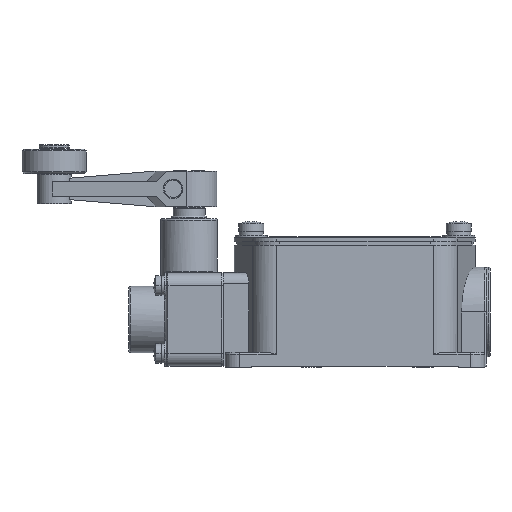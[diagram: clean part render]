
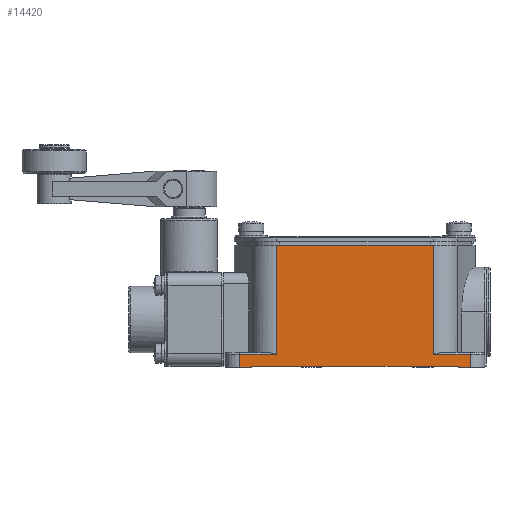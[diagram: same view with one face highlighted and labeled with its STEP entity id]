
A CAD part, front view. The second image highlights one B-rep face of the part: STEP entity #14420.
In plain terms, the highlighted planar face has unit normal (0, -1, 0).
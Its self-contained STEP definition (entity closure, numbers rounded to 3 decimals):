
#3562=DIRECTION('',(1.,0.,0.));
#3563=VECTOR('',#3562,57.7);
#3564=CARTESIAN_POINT('',(-28.85,-21.1,0.));
#3565=LINE('',#3564,#3563);
#3729=DIRECTION('',(0.,0.,-1.));
#3730=VECTOR('',#3729,0.4);
#3731=CARTESIAN_POINT('',(28.85,-21.1,0.));
#3732=LINE('',#3731,#3730);
#3733=DIRECTION('',(1.,0.,0.));
#3734=VECTOR('',#3733,10.326);
#3735=CARTESIAN_POINT('',(21.924,-21.1,3.3));
#3736=LINE('',#3735,#3734);
#3737=DIRECTION('',(0.,0.,1.));
#3738=VECTOR('',#3737,3.7);
#3739=CARTESIAN_POINT('',(32.25,-21.1,-0.4));
#3740=LINE('',#3739,#3738);
#3741=DIRECTION('',(0.,0.,-1.));
#3742=VECTOR('',#3741,0.4);
#3743=CARTESIAN_POINT('',(-28.85,-21.1,0.));
#3744=LINE('',#3743,#3742);
#3745=DIRECTION('',(0.,0.,-1.));
#3746=VECTOR('',#3745,3.7);
#3747=CARTESIAN_POINT('',(-32.25,-21.1,3.3));
#3748=LINE('',#3747,#3746);
#3749=DIRECTION('',(1.,0.,0.));
#3750=VECTOR('',#3749,10.326);
#3751=CARTESIAN_POINT('',(-32.25,-21.1,3.3));
#3752=LINE('',#3751,#3750);
#3827=DIRECTION('',(-1.,0.,0.));
#3828=VECTOR('',#3827,3.4);
#3829=CARTESIAN_POINT('',(32.25,-21.1,-0.4));
#3830=LINE('',#3829,#3828);
#3854=DIRECTION('',(0.,0.,1.));
#3855=VECTOR('',#3854,30.5);
#3856=CARTESIAN_POINT('',(21.924,-21.1,3.3));
#3857=LINE('',#3856,#3855);
#3881=DIRECTION('',(1.,0.,0.));
#3882=VECTOR('',#3881,43.849);
#3883=CARTESIAN_POINT('',(-21.924,-21.1,33.8));
#3884=LINE('',#3883,#3882);
#4044=DIRECTION('',(0.,0.,-1.));
#4045=VECTOR('',#4044,30.5);
#4046=CARTESIAN_POINT('',(-21.924,-21.1,33.8));
#4047=LINE('',#4046,#4045);
#4132=DIRECTION('',(-1.,0.,0.));
#4133=VECTOR('',#4132,3.4);
#4134=CARTESIAN_POINT('',(-28.85,-21.1,-0.4));
#4135=LINE('',#4134,#4133);
#8296=CARTESIAN_POINT('',(28.85,-21.1,-0.4));
#8298=VERTEX_POINT('',#8296);
#8310=CARTESIAN_POINT('',(-28.85,-21.1,-0.4));
#8311=VERTEX_POINT('',#8310);
#8328=CARTESIAN_POINT('',(28.85,-21.1,0.));
#8330=VERTEX_POINT('',#8328);
#8342=CARTESIAN_POINT('',(-28.85,-21.1,0.));
#8343=VERTEX_POINT('',#8342);
#8400=CARTESIAN_POINT('',(-21.924,-21.1,33.8));
#8401=VERTEX_POINT('',#8400);
#8402=CARTESIAN_POINT('',(21.924,-21.1,33.8));
#8404=VERTEX_POINT('',#8402);
#8409=CARTESIAN_POINT('',(32.25,-21.1,-0.4));
#8411=VERTEX_POINT('',#8409);
#8420=CARTESIAN_POINT('',(-32.25,-21.1,-0.4));
#8422=VERTEX_POINT('',#8420);
#8563=CARTESIAN_POINT('',(32.25,-21.1,3.3));
#8564=VERTEX_POINT('',#8563);
#8567=CARTESIAN_POINT('',(21.924,-21.1,3.3));
#8568=VERTEX_POINT('',#8567);
#8597=CARTESIAN_POINT('',(-32.25,-21.1,3.3));
#8598=CARTESIAN_POINT('',(-21.924,-21.1,3.3));
#8599=VERTEX_POINT('',#8597);
#8600=VERTEX_POINT('',#8598);
#14391=CARTESIAN_POINT('',(-36.25,-21.1,0.));
#14392=DIRECTION('',(0.,-1.,0.));
#14393=DIRECTION('',(1.,0.,0.));
#14394=AXIS2_PLACEMENT_3D('',#14391,#14392,#14393);
#14395=PLANE('',#14394);
#14397=ORIENTED_EDGE('',*,*,#14396,.T.);
#14399=ORIENTED_EDGE('',*,*,#14398,.F.);
#14401=ORIENTED_EDGE('',*,*,#14400,.T.);
#14402=ORIENTED_EDGE('',*,*,#14383,.F.);
#14403=ORIENTED_EDGE('',*,*,#14165,.F.);
#14405=ORIENTED_EDGE('',*,*,#14404,.T.);
#14407=ORIENTED_EDGE('',*,*,#14406,.T.);
#14409=ORIENTED_EDGE('',*,*,#14408,.F.);
#14411=ORIENTED_EDGE('',*,*,#14410,.T.);
#14413=ORIENTED_EDGE('',*,*,#14412,.F.);
#14415=ORIENTED_EDGE('',*,*,#14414,.T.);
#14417=ORIENTED_EDGE('',*,*,#14416,.F.);
#14418=EDGE_LOOP('',(#14397,#14399,#14401,#14402,#14403,#14405,#14407,#14409,
#14411,#14413,#14415,#14417));
#14419=FACE_OUTER_BOUND('',#14418,.F.);
#14420=ADVANCED_FACE('',(#14419),#14395,.T.);
#14165=EDGE_CURVE('',#8343,#8330,#3565,.T.);
#14383=EDGE_CURVE('',#8330,#8298,#3732,.T.);
#14396=EDGE_CURVE('',#8568,#8564,#3736,.T.);
#14398=EDGE_CURVE('',#8411,#8564,#3740,.T.);
#14400=EDGE_CURVE('',#8411,#8298,#3830,.T.);
#14404=EDGE_CURVE('',#8343,#8311,#3744,.T.);
#14406=EDGE_CURVE('',#8311,#8422,#4135,.T.);
#14408=EDGE_CURVE('',#8599,#8422,#3748,.T.);
#14410=EDGE_CURVE('',#8599,#8600,#3752,.T.);
#14412=EDGE_CURVE('',#8401,#8600,#4047,.T.);
#14414=EDGE_CURVE('',#8401,#8404,#3884,.T.);
#14416=EDGE_CURVE('',#8568,#8404,#3857,.T.);
